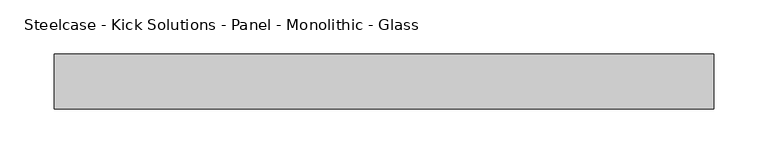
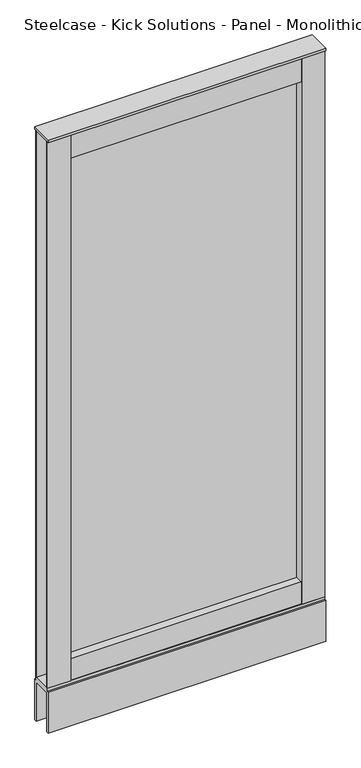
"""IFC4 building model written with IfcOpenShell, lengths in millimetres: furniture geometry, Steelcase - Kick Solutions - Panel - Monolithic - Glass : 54H x 24W."""

from ifc_helpers import new_model, si_unit, frame, origin, place, context, project, spatial, polyline, outline, extrude, source, transform, mapped, element, save


def steelcase_kick_solutions_panel_monolithic_glass_90960056(model_context):
    return source(origin(), model_context, "Body", "SweptSolid", [
        extrude(outline(polyline([(558.8006661, -5.08), (558.8006661, -45.7200015), (50.8006646, -45.7200015), (50.8006646, -5.08), (558.8006661, -5.08)])), frame((0.0, 0.0, 101.7169049), z_axis=(0.0, 0.0, 1.0), x_axis=(1.0, 0.0, 0.0)), (0.0, 0.0, 1.0), 50.6830951),
        extrude(outline(polyline([(558.8006661, -5.08), (558.8006661, -45.7200015), (50.8006646, -45.7200015), (50.8006646, -5.08), (558.8006661, -5.08)])), frame((0.0, 0.0, 1314.45), z_axis=(0.0, 0.0, 1.0), x_axis=(1.0, 0.0, 0.0)), (0.0, 0.0, 1.0), 57.15),
        extrude(outline(polyline([(50.8006646, -3.1743148), (50.8006646, -47.6243142), (0.0, -47.6243142), (0.0, -45.7200015), (47.7526646, -45.7200015), (47.7526646, -5.08), (0.0, -5.08), (0.0, -3.1743148), (50.8006646, -3.1743148)])), frame((0.0, 0.0, 101.7169049), z_axis=(0.0, 0.0, 1.0), x_axis=(1.0, 0.0, 0.0)), (0.0, 0.0, 1.0), 1269.8830951),
        extrude(outline(polyline([(558.8006661, -3.1743148), (609.6, -3.1743148), (609.6, -5.08), (561.8486661, -5.08), (561.8486661, -45.7200015), (609.6, -45.7200015), (609.6, -47.6243142), (558.8006661, -47.6243142), (558.8006661, -3.1743148)])), frame((0.0, 0.0, 101.7169049), z_axis=(0.0, 0.0, 1.0), x_axis=(1.0, 0.0, 0.0)), (0.0, 0.0, 1.0), 1269.8830951),
        extrude(outline(polyline([(558.8006661, -28.422537), (50.8006646, -28.422537), (50.8006646, -25.4), (558.8006661, -25.4), (558.8006661, -28.422537)])), frame((0.0, 0.0, 152.4), z_axis=(0.0, 0.0, 1.0), x_axis=(1.0, 0.0, 0.0)), (0.0, 0.0, 1.0), 1162.05),
        extrude(outline(polyline([(609.6, 0.0), (609.6, -50.8000015), (0.0, -50.8000015), (0.0, 0.0), (609.6, 0.0)])), frame((0.0, 0.0, 1371.6), z_axis=(0.0, 0.0, 1.0), x_axis=(1.0, 0.0, 0.0)), (0.0, 0.0, 1.0), 6.35),
        extrude(outline(polyline([(0.0, 0.0), (-5.08, 0.0), (-5.08, 90.2869018), (-45.7200015, 90.2869018), (-45.7200015, 0.0), (-50.8000015, 0.0), (-50.8000015, 95.3669018), (-47.6243142, 95.3669018), (-47.6243142, 101.7169049), (-3.1743148, 101.7169049), (-3.1743148, 95.3669018), (0.0, 95.3669018), (0.0, 0.0)])), frame((0.0, 0.0, 0.0), z_axis=(1.0, 0.0, 0.0), x_axis=(0.0, 1.0, 0.0)), (0.0, 0.0, 1.0), 609.6),
    ])


if __name__ == "__main__":
    model = new_model("IFC4")
    model_context = context("Model", 3, world=origin())
    ifc_project = project(units=[si_unit("LENGTHUNIT", "METRE", prefix="MILLI")], contexts=[model_context])
    site = spatial("IfcSite", under=ifc_project)
    building = spatial("IfcBuilding", under=site)
    placement = place(None, origin())
    steelcase_kick_solutions_panel_monolithic_glass_shape = steelcase_kick_solutions_panel_monolithic_glass_90960056(model_context)
    element("IfcFurniture", 1, ObjectType="Steelcase - Kick Solutions - Panel - Monolithic - Glass : 54H x 24W", at=placement, inside=building, context=model_context, shape_type="MappedRepresentation", body=[
        mapped(steelcase_kick_solutions_panel_monolithic_glass_shape, transform((0.0, 0.0, 0.0), x_axis=(1.0, 0.0, 0.0), y_axis=(0.0, 1.0, 0.0), z_axis=(0.0, 0.0, 1.0))),
    ])
    save(model, "model.ifc")
